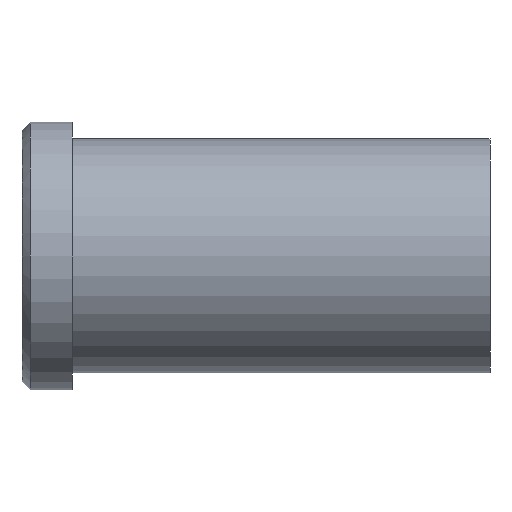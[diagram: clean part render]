
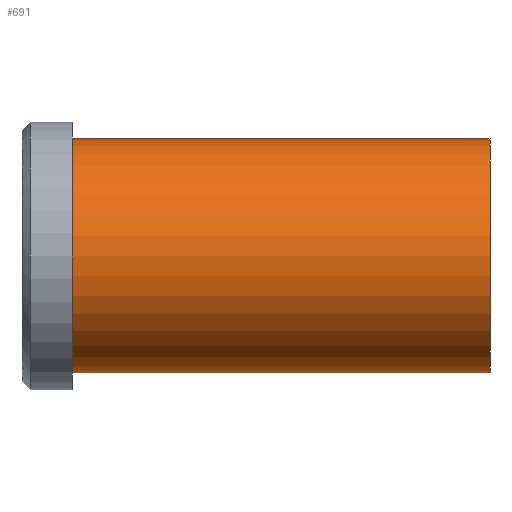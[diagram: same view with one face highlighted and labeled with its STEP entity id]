
A CAD part, front view. The second image highlights one B-rep face of the part: STEP entity #691.
In plain terms, the highlighted cylindrical face has radius 14 mm (diameter 28 mm), a partial arc.
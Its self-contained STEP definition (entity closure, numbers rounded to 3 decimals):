
#501=CARTESIAN_POINT('Vertex',(0.,0.,-14.)) ;
#506=CARTESIAN_POINT('Axis2P3D Location',(0.,0.,0.)) ;
#510=CARTESIAN_POINT('Vertex',(0.,-14.,0.)) ;
#513=CARTESIAN_POINT('Axis2P3D Location',(0.,0.,0.)) ;
#517=CARTESIAN_POINT('Vertex',(0.,0.,14.)) ;
#631=CARTESIAN_POINT('Line Origine',(50.,0.,14.)) ;
#635=CARTESIAN_POINT('Vertex',(50.,0.,14.)) ;
#649=CARTESIAN_POINT('Vertex',(50.,0.,-14.)) ;
#652=CARTESIAN_POINT('Line Origine',(50.,0.,-14.)) ;
#666=CARTESIAN_POINT('Axis2P3D Location',(50.,0.,0.)) ;
#671=CARTESIAN_POINT('Axis2P3D Location',(50.,0.,0.)) ;
#675=CARTESIAN_POINT('Vertex',(50.,-14.,0.)) ;
#678=CARTESIAN_POINT('Axis2P3D Location',(50.,0.,0.)) ;
#507=DIRECTION('Axis2P3D Direction',(1.,0.,-0.)) ;
#514=DIRECTION('Axis2P3D Direction',(1.,0.,-0.)) ;
#632=DIRECTION('Vector Direction',(-1.,0.,0.)) ;
#653=DIRECTION('Vector Direction',(-1.,0.,0.)) ;
#667=DIRECTION('Axis2P3D Direction',(-1.,-0.,-0.)) ;
#668=DIRECTION('Axis2P3D XDirection',(0.,0.,-1.)) ;
#672=DIRECTION('Axis2P3D Direction',(-1.,-0.,-0.)) ;
#679=DIRECTION('Axis2P3D Direction',(-1.,-0.,-0.)) ;
#508=AXIS2_PLACEMENT_3D('Circle Axis2P3D',#506,#507,$) ;
#515=AXIS2_PLACEMENT_3D('Circle Axis2P3D',#513,#514,$) ;
#669=AXIS2_PLACEMENT_3D('Cylinder Axis2P3D',#666,#667,#668) ;
#673=AXIS2_PLACEMENT_3D('Circle Axis2P3D',#671,#672,$) ;
#680=AXIS2_PLACEMENT_3D('Circle Axis2P3D',#678,#679,$) ;
#684=ORIENTED_EDGE('',*,*,#656,.T.) ;
#685=ORIENTED_EDGE('',*,*,#677,.F.) ;
#686=ORIENTED_EDGE('',*,*,#682,.F.) ;
#687=ORIENTED_EDGE('',*,*,#637,.T.) ;
#688=ORIENTED_EDGE('',*,*,#519,.T.) ;
#689=ORIENTED_EDGE('',*,*,#512,.T.) ;
#633=VECTOR('Line Direction',#632,1.) ;
#654=VECTOR('Line Direction',#653,1.) ;
#691=ADVANCED_FACE('353-20X56',(#690),#670,.T.) ;
#509=CIRCLE('generated circle',#508,14.) ;
#516=CIRCLE('generated circle',#515,14.) ;
#674=CIRCLE('generated circle',#673,14.) ;
#681=CIRCLE('generated circle',#680,14.) ;
#670=CYLINDRICAL_SURFACE('generated cylinder',#669,14.) ;
#512=EDGE_CURVE('',#511,#502,#509,.T.) ;
#519=EDGE_CURVE('',#518,#511,#516,.T.) ;
#637=EDGE_CURVE('',#636,#518,#634,.T.) ;
#656=EDGE_CURVE('',#502,#650,#655,.F.) ;
#677=EDGE_CURVE('',#676,#650,#674,.F.) ;
#682=EDGE_CURVE('',#636,#676,#681,.F.) ;
#683=EDGE_LOOP('',(#684,#685,#686,#687,#688,#689)) ;
#690=FACE_OUTER_BOUND('',#683,.T.) ;
#634=LINE('Line',#631,#633) ;
#655=LINE('Line',#652,#654) ;
#502=VERTEX_POINT('',#501) ;
#511=VERTEX_POINT('',#510) ;
#518=VERTEX_POINT('',#517) ;
#636=VERTEX_POINT('',#635) ;
#650=VERTEX_POINT('',#649) ;
#676=VERTEX_POINT('',#675) ;
